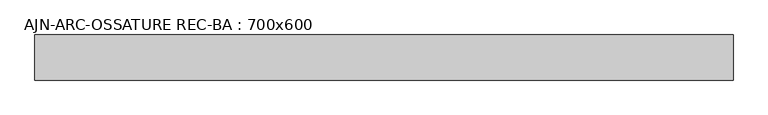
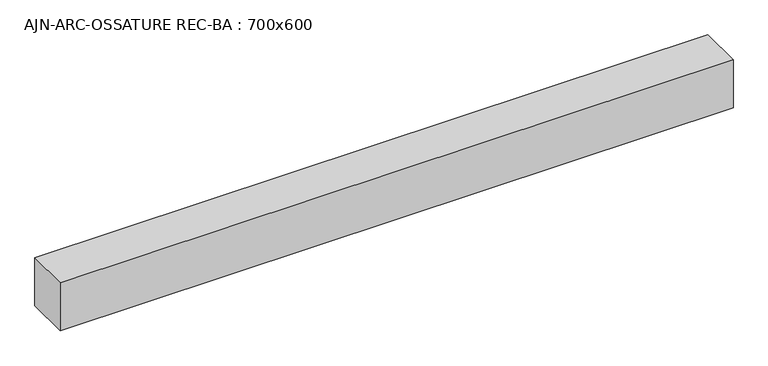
"""IFC4 building model written with IfcOpenShell, lengths in millimetres: beam geometry, AJN-ARC-OSSATURE REC-BA : 700x600."""

from ifc_helpers import new_model, si_unit, frame, origin, place, context, project, spatial, polyline, outline, extrude, source, transform, mapped, element, save


def ajn_arc_ossature_rec_ba_700x600_b2f97811(model_context):
    return source(origin(), model_context, "Body", "SweptSolid", [
        extrude(outline(polyline([(4487.3, 300.0), (4487.3, -300.0), (-4787.2999994, -300.0), (-4787.2999994, 300.0), (4487.3, 300.0)])), frame((0.0, 0.0, -350.0), z_axis=(0.0, 0.0, 1.0), x_axis=(1.0, 0.0, 0.0)), (0.0, 0.0, 1.0), 700.0),
    ])


if __name__ == "__main__":
    model = new_model("IFC4")
    model_context = context("Model", 3, world=origin())
    ifc_project = project(units=[si_unit("LENGTHUNIT", "METRE", prefix="MILLI")], contexts=[model_context])
    site = spatial("IfcSite", under=ifc_project)
    building = spatial("IfcBuilding", under=site)
    placement = place(None, origin())
    ajn_arc_ossature_rec_ba_700x600_shape = ajn_arc_ossature_rec_ba_700x600_b2f97811(model_context)
    element("IfcBeam", 1, ObjectType="AJN-ARC-OSSATURE REC-BA : 700x600", at=placement, inside=building, context=model_context, shape_type="MappedRepresentation", body=[
        mapped(ajn_arc_ossature_rec_ba_700x600_shape, transform((0.0, 0.0, 0.0), x_axis=(1.0, 0.0, 0.0), y_axis=(0.0, 1.0, 0.0), z_axis=(0.0, 0.0, 1.0))),
    ])
    save(model, "model.ifc")
